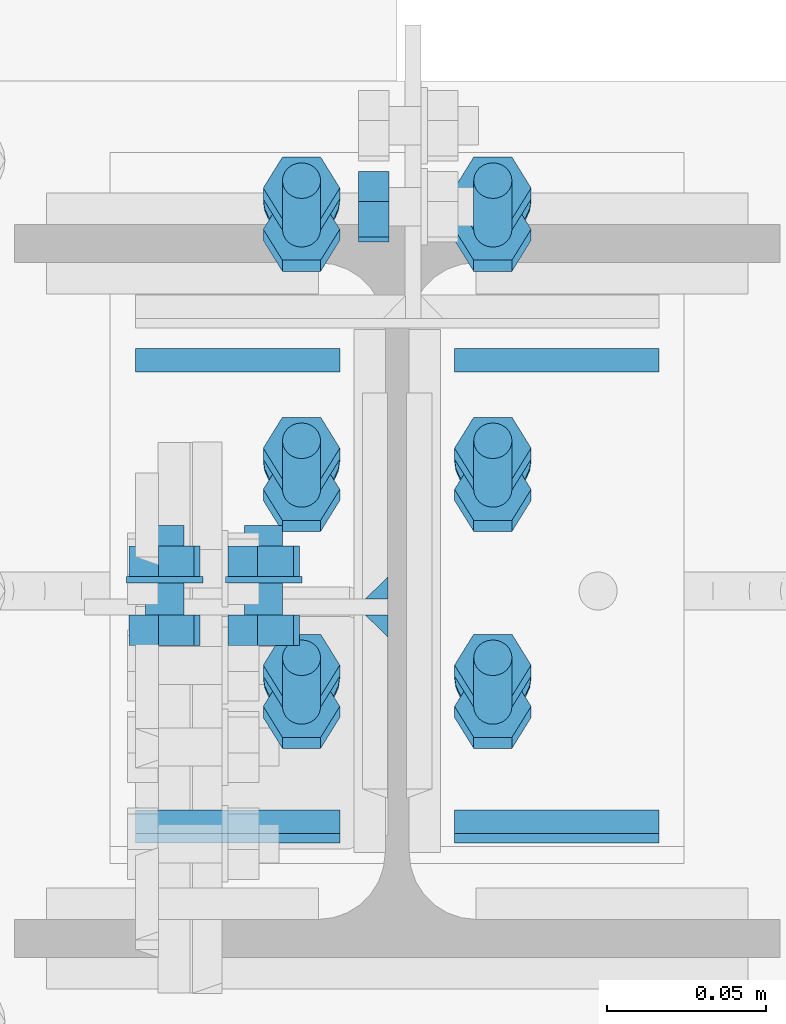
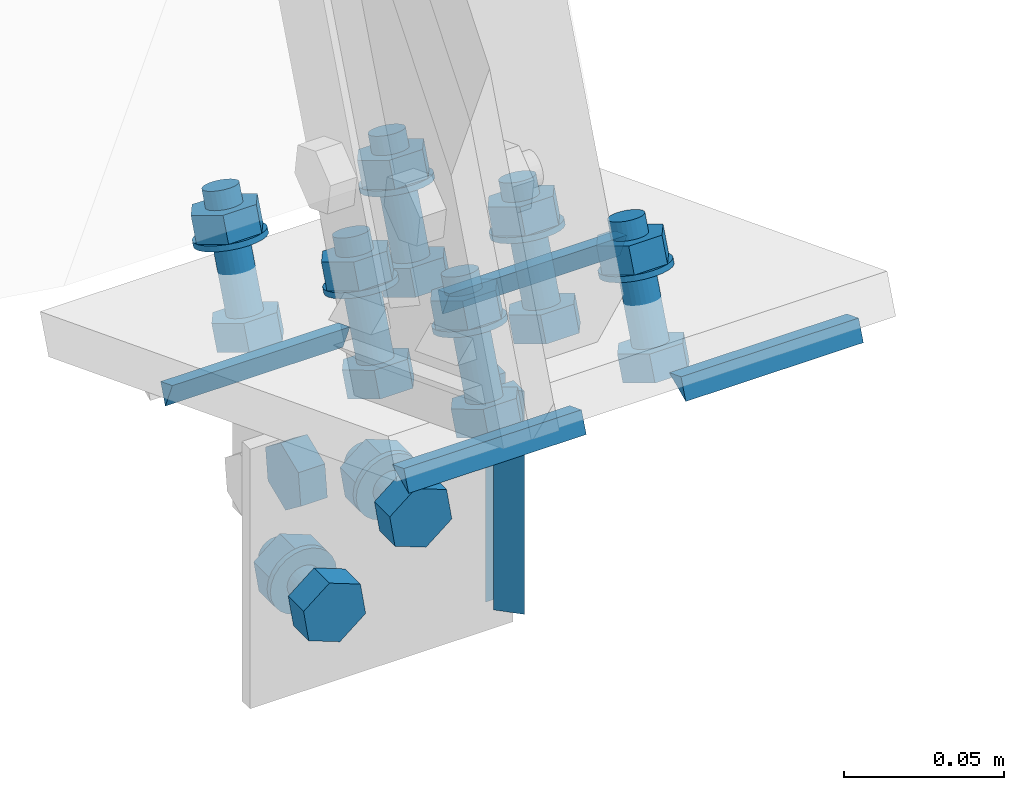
# One storey, part 60 of 72: 33 mechanical fasteners, 10 fasteners.
"""IFC4 building model written with IfcOpenShell, lengths in metres."""

from ifc_helpers import new_model, si_unit, frame, origin_with_axes, place, context, project, spatial, polyline, outline, extrude, type_object, element, save


model = new_model("IFC4")

# Units and contexts
model_context = context("Model", 3, precision=1e-05, world=origin_with_axes())
ifc_project = project(units=[si_unit("LENGTHUNIT", "METRE"), si_unit("AREAUNIT", "SQUARE_METRE"), si_unit("VOLUMEUNIT", "CUBIC_METRE"), si_unit("MASSUNIT", "GRAM", prefix="KILO"), si_unit("TIMEUNIT", "SECOND"), si_unit("PLANEANGLEUNIT", "RADIAN"), si_unit("SOLIDANGLEUNIT", "STERADIAN"), si_unit("THERMODYNAMICTEMPERATUREUNIT", "DEGREE_CELSIUS")], contexts=[model_context])

# Site, building, storey
placement_1 = place(None, origin_with_axes())
site = spatial("IfcSite", under=ifc_project, at=placement_1, Name="Italia", CompositionType="ELEMENT")
building = spatial("IfcBuilding", under=site, at=placement_1, Name="Uffici", CompositionType="ELEMENT")
storey = spatial("IfcBuildingStorey", under=building, at=placement_1, Name="Storey 0", CompositionType="ELEMENT", Elevation=0.0)

# Mechanical fasteners
mechanical_fastener_type_1 = type_object("IfcMechanicalFastenerType", Name="Collegamento 0205_0104", PredefinedType="BOLT")
placement_2 = place(placement_1, origin_with_axes())
mechanical_fastener_1_placement = place(placement_2, origin_with_axes())
element("IfcMechanicalFastener", 1, at=mechanical_fastener_1_placement, inside=storey, type_object=mechanical_fastener_type_1, Name="Collegamento 0205_0104", NominalDiameter=0.0119994, context=model_context, shape_type="SweptSolid", body=[
    extrude(outline(polyline([(0.0, 0.0), (0.00932503, 0.00755262), (0.00744629, 0.0194049), (-0.00375652, 0.0237041), (-0.0130816, 0.0161514), (-0.0112038, 0.00429916), (0.0, 0.0)])), frame((13.93, -0.0075, 6.93705), z_axis=(0.0, -1.0, 0.0), x_axis=(1.0, 0.0, 0.0)), (0.0, 0.0, 1.0), 0.0096),
])
mechanical_fastener_type_2 = type_object("IfcMechanicalFastenerType", Name="Collegamento 0205_0104", PredefinedType="BOLT")
mechanical_fastener_2_placement = place(placement_2, origin_with_axes())
element("IfcMechanicalFastener", 2, at=mechanical_fastener_2_placement, inside=storey, type_object=mechanical_fastener_type_2, Name="Collegamento 0205_0104", NominalDiameter=0.012, context=model_context, shape_type="SweptSolid", body=[
    extrude(outline(polyline([(0.0, 0.0), (-0.000204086, -0.00155306), (-0.000802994, -0.00299978), (-0.00175667, -0.00424242), (-0.00299931, -0.00519609), (-0.00444698, -0.00579548), (-0.00599957, -0.00600004), (-0.00755215, -0.00579548), (-0.00899982, -0.00519609), (-0.0102425, -0.00424242), (-0.0111961, -0.00299978), (-0.011795, -0.00155306), (-0.0119991, 0.0), (-0.011795, 0.00155306), (-0.0111961, 0.00299978), (-0.0102425, 0.00424242), (-0.00899982, 0.00519609), (-0.00755215, 0.00579548), (-0.00599957, 0.00600004), (-0.00444698, 0.00579548), (-0.00299931, 0.00519609), (-0.00175667, 0.00424242), (-0.000802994, 0.00299978), (-0.000204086, 0.00155306), (0.0, 0.0)])), frame((13.9341, 0.0205, 6.9489), z_axis=(0.0, -1.0, 0.0), x_axis=(1.0, 0.0, 0.0)), (0.0, 0.0, 1.0), 0.028),
])
mechanical_fastener_type_3 = type_object("IfcMechanicalFastenerType", Name="Collegamento 0205_0104", PredefinedType="BOLT")
mechanical_fastener_3_placement = place(placement_2, origin_with_axes())
element("IfcMechanicalFastener", 3, at=mechanical_fastener_3_placement, inside=storey, type_object=mechanical_fastener_type_3, Name="Collegamento 0205_0104", NominalDiameter=0.0119994, context=model_context, shape_type="SweptSolid", body=[
    extrude(outline(polyline([(0.0, 0.0), (0.00932503, 0.00755262), (0.00744629, 0.0194049), (-0.00375652, 0.0237041), (-0.0130816, 0.0161514), (-0.0112038, 0.00429916), (0.0, 0.0)])), frame((13.93, 0.0141, 6.93705), z_axis=(0.0, -1.0, 0.0), x_axis=(1.0, 0.0, 0.0)), (0.0, 0.0, 1.0), 0.0096),
])
mechanical_fastener_type_4 = type_object("IfcMechanicalFastenerType", Name="Collegamento 0205_0104", PredefinedType="BOLT")
mechanical_fastener_4_placement = place(placement_2, origin_with_axes())
element("IfcMechanicalFastener", 4, at=mechanical_fastener_4_placement, inside=storey, type_object=mechanical_fastener_type_4, Name="Collegamento 0205_0104", NominalDiameter=0.024, context=model_context, shape_type="SweptSolid", body=[
    extrude(outline(polyline([(0.0, 0.0), (-0.000409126, -0.00310564), (-0.00160789, -0.00600004), (-0.00351524, -0.00848532), (-0.00600052, -0.0103922), (-0.00889397, -0.011591), (-0.0120001, -0.0120001), (-0.0151062, -0.011591), (-0.0179996, -0.0103922), (-0.0204849, -0.00848532), (-0.0223923, -0.00600004), (-0.023591, -0.00310564), (-0.0240002, 0.0), (-0.023591, 0.00310564), (-0.0223923, 0.00600004), (-0.0204849, 0.00848532), (-0.0179996, 0.0103922), (-0.0151062, 0.011591), (-0.0120001, 0.0120001), (-0.00889397, 0.011591), (-0.00600052, 0.0103922), (-0.00351524, 0.00848532), (-0.00160789, 0.00600004), (-0.000409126, 0.00310564), (0.0, 0.0)])), frame((13.9401, 0.0045, 6.9489), z_axis=(0.0, -1.0, 0.0), x_axis=(1.0, 0.0, 0.0)), (0.0, 0.0, 1.0), 0.002),
])
mechanical_fastener_type_5 = type_object("IfcMechanicalFastenerType", Name="Collegamento 0205_0104", PredefinedType="BOLT")
mechanical_fastener_5_placement = place(placement_2, origin_with_axes())
element("IfcMechanicalFastener", 5, at=mechanical_fastener_5_placement, inside=storey, type_object=mechanical_fastener_type_5, Name="Collegamento 0205_0104", NominalDiameter=0.0119998, context=model_context, shape_type="SweptSolid", body=[
    extrude(outline(polyline([(0.0, 0.0), (0.00932503, 0.0075531), (0.00744629, 0.0194049), (-0.00375748, 0.0237045), (-0.0130825, 0.0161514), (-0.0112038, 0.00429964), (0.0, 0.0)])), frame((13.8989, -0.0075, 6.91187), z_axis=(0.0, -1.0, 0.0), x_axis=(1.0, 0.0, 0.0)), (0.0, 0.0, 1.0), 0.0096),
])
mechanical_fastener_type_6 = type_object("IfcMechanicalFastenerType", Name="Collegamento 0205_0104", PredefinedType="BOLT")
mechanical_fastener_6_placement = place(placement_2, origin_with_axes())
element("IfcMechanicalFastener", 6, at=mechanical_fastener_6_placement, inside=storey, type_object=mechanical_fastener_type_6, Name="Collegamento 0205_0104", NominalDiameter=0.012, context=model_context, shape_type="SweptSolid", body=[
    extrude(outline(polyline([(0.0, 0.0), (-0.000204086, -0.00155306), (-0.000802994, -0.00299978), (-0.00175667, -0.00424242), (-0.00299931, -0.00519609), (-0.00444698, -0.00579548), (-0.00599957, -0.00600004), (-0.00755215, -0.00579548), (-0.00899982, -0.00519609), (-0.0102425, -0.00424242), (-0.0111961, -0.00299978), (-0.011795, -0.00155306), (-0.0119991, 0.0), (-0.011795, 0.00155306), (-0.0111961, 0.00299978), (-0.0102425, 0.00424242), (-0.00899982, 0.00519609), (-0.00755215, 0.00579548), (-0.00599957, 0.00600004), (-0.00444698, 0.00579548), (-0.00299931, 0.00519609), (-0.00175667, 0.00424242), (-0.000802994, 0.00299978), (-0.000204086, 0.00155306), (0.0, 0.0)])), frame((13.9031, 0.0205, 6.92372), z_axis=(0.0, -1.0, 0.0), x_axis=(1.0, 0.0, 0.0)), (0.0, 0.0, 1.0), 0.028),
])
mechanical_fastener_type_7 = type_object("IfcMechanicalFastenerType", Name="Collegamento 0205_0104", PredefinedType="BOLT")
mechanical_fastener_7_placement = place(placement_2, origin_with_axes())
element("IfcMechanicalFastener", 7, at=mechanical_fastener_7_placement, inside=storey, type_object=mechanical_fastener_type_7, Name="Collegamento 0205_0104", NominalDiameter=0.0119998, context=model_context, shape_type="SweptSolid", body=[
    extrude(outline(polyline([(0.0, 0.0), (0.00932503, 0.0075531), (0.00744629, 0.0194049), (-0.00375748, 0.0237045), (-0.0130825, 0.0161514), (-0.0112038, 0.00429964), (0.0, 0.0)])), frame((13.8989, 0.0141, 6.91187), z_axis=(0.0, -1.0, 0.0), x_axis=(1.0, 0.0, 0.0)), (0.0, 0.0, 1.0), 0.0096),
])
mechanical_fastener_type_8 = type_object("IfcMechanicalFastenerType", Name="Collegamento 0205_0104", PredefinedType="BOLT")
mechanical_fastener_8_placement = place(placement_2, origin_with_axes())
element("IfcMechanicalFastener", 8, at=mechanical_fastener_8_placement, inside=storey, type_object=mechanical_fastener_type_8, Name="Collegamento 0205_0104", NominalDiameter=0.024, context=model_context, shape_type="SweptSolid", body=[
    extrude(outline(polyline([(0.0, 0.0), (-0.000409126, -0.00310564), (-0.00160789, -0.00600004), (-0.00351524, -0.00848532), (-0.00600052, -0.0103922), (-0.00889397, -0.011591), (-0.0120001, -0.0120001), (-0.0151062, -0.011591), (-0.0179996, -0.0103922), (-0.0204849, -0.00848532), (-0.0223923, -0.00600004), (-0.023591, -0.00310564), (-0.0240002, 0.0), (-0.023591, 0.00310564), (-0.0223923, 0.00600004), (-0.0204849, 0.00848532), (-0.0179996, 0.0103922), (-0.0151062, 0.011591), (-0.0120001, 0.0120001), (-0.00889397, 0.011591), (-0.00600052, 0.0103922), (-0.00351524, 0.00848532), (-0.00160789, 0.00600004), (-0.000409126, 0.00310564), (0.0, 0.0)])), frame((13.9091, 0.0045, 6.92372), z_axis=(0.0, -1.0, 0.0), x_axis=(1.0, 0.0, 0.0)), (0.0, 0.0, 1.0), 0.002),
])

# Fasteners
fastener_type_1 = type_object("IfcFastenerType", Name="Collegamento 0205_0104", PredefinedType="WELD")
fastener_1_placement = place(placement_2, origin_with_axes())
element("IfcFastener", 9, at=fastener_1_placement, inside=storey, type_object=fastener_type_1, Name="Collegamento 0205_0104", context=model_context, shape_type="SweptSolid", body=[
    extrude(outline(polyline([(0.0, 0.0), (-0.00695816, -0.00717258), (-0.00695816, 0.0), (0.0, 0.0)])), frame((13.9671, 0.00440816, 6.98192), z_axis=(0.0, 0.0, -1.0), x_axis=(0.0, 1.0, 0.0)), (0.0, 0.0, 1.0), 0.0851007),
])
fastener_type_2 = type_object("IfcFastenerType", Name="Collegamento 0205_0104", PredefinedType="WELD")
fastener_2_placement = place(placement_2, origin_with_axes())
element("IfcFastener", 10, at=fastener_2_placement, inside=storey, type_object=fastener_type_2, Name="Collegamento 0205_0104", context=model_context, shape_type="SweptSolid", body=[
    extrude(outline(polyline([(0.0, 0.0), (0.00695816, 0.00717258), (0.00695816, 0.0), (0.0, 0.0)])), frame((13.9671, -0.0144082, 6.89682), z_axis=(0.0, 0.0, 1.0), x_axis=(0.0, 1.0, 0.0)), (0.0, 0.0, 1.0), 0.0851007),
])
fastener_type_3 = type_object("IfcFastenerType", Name="Collegamento 0205_0105", PredefinedType="WELD")
fastener_3_placement = place(placement_2, origin_with_axes())
element("IfcFastener", 11, at=fastener_3_placement, inside=storey, type_object=fastener_type_3, Name="Collegamento 0205_0105", context=model_context, shape_type="SweptSolid", body=[
    extrude(outline(polyline([(0.0, 0.0), (-0.00443701, -0.0104866), (-0.00739191, -0.00286627), (0.0, 0.0)])), frame((14.0521, 0.0686731, 6.96138), z_axis=(-1.0, 0.0, 0.0), x_axis=(0.0, -1.0, 0.0)), (0.0, 0.0, 1.0), 0.0641003),
])
fastener_type_4 = type_object("IfcFastenerType", Name="Collegamento 0205_0105", PredefinedType="WELD")
fastener_4_placement = place(placement_2, origin_with_axes())
element("IfcFastener", 12, at=fastener_4_placement, inside=storey, type_object=fastener_type_4, Name="Collegamento 0205_0105", context=model_context, shape_type="SweptSolid", body=[
    extrude(outline(polyline([(0.0, 0.0), (-0.0103468, -0.00475454), (-0.00739191, 0.00286627), (0.0, 0.0)])), frame((13.988, -0.0686362, 7.01462), z_axis=(1.0, 0.0, 0.0), x_axis=(0.0, 1.0, 0.0)), (0.0, 0.0, 1.0), 0.0641003),
])
fastener_type_5 = type_object("IfcFastenerType", Name="Collegamento 0205_0105", PredefinedType="WELD")
fastener_5_placement = place(placement_2, origin_with_axes())
element("IfcFastener", 13, at=fastener_5_placement, inside=storey, type_object=fastener_type_5, Name="Collegamento 0205_0105", context=model_context, shape_type="SweptSolid", body=[
    extrude(outline(polyline([(0.0, 0.0), (-0.0103468, -0.00475454), (-0.00739191, 0.00286627), (0.0, 0.0)])), frame((13.888, -0.0686362, 7.01462), z_axis=(1.0, 0.0, 0.0), x_axis=(0.0, 1.0, 0.0)), (0.0, 0.0, 1.0), 0.0641003),
])
fastener_type_6 = type_object("IfcFastenerType", Name="Collegamento 0205_0105", PredefinedType="WELD")
fastener_6_placement = place(placement_2, origin_with_axes())
element("IfcFastener", 14, at=fastener_6_placement, inside=storey, type_object=fastener_type_6, Name="Collegamento 0205_0105", context=model_context, shape_type="SweptSolid", body=[
    extrude(outline(polyline([(0.0, 0.0), (-0.00443701, -0.0104866), (-0.00739191, -0.00286627), (0.0, 0.0)])), frame((13.9521, 0.0686731, 6.96138), z_axis=(-1.0, 0.0, 0.0), x_axis=(0.0, -1.0, 0.0)), (0.0, 0.0, 1.0), 0.0641003),
])
fastener_type_7 = type_object("IfcFastenerType", Name="Collegamento 0205_0105", PredefinedType="WELD")
fastener_7_placement = place(placement_2, origin_with_axes())
element("IfcFastener", 15, at=fastener_7_placement, inside=storey, type_object=fastener_type_7, Name="Collegamento 0205_0105", context=model_context, shape_type="SweptSolid", body=[
    extrude(outline(polyline([(0.0, 0.0), (-0.00443701, -0.0104866), (-0.00739191, -0.00286627), (0.0, 0.0)])), frame((14.0521, 0.0686731, 6.96138), z_axis=(-1.0, 0.0, 0.0), x_axis=(0.0, -1.0, 0.0)), (0.0, 0.0, 1.0), 0.0641003),
])
fastener_type_8 = type_object("IfcFastenerType", Name="Collegamento 0205_0105", PredefinedType="WELD")
fastener_8_placement = place(placement_2, origin_with_axes())
element("IfcFastener", 16, at=fastener_8_placement, inside=storey, type_object=fastener_type_8, Name="Collegamento 0205_0105", context=model_context, shape_type="SweptSolid", body=[
    extrude(outline(polyline([(0.0, 0.0), (-0.0103468, -0.00475454), (-0.00739191, 0.00286627), (0.0, 0.0)])), frame((13.988, -0.0686362, 7.01462), z_axis=(1.0, 0.0, 0.0), x_axis=(0.0, 1.0, 0.0)), (0.0, 0.0, 1.0), 0.0641003),
])
fastener_type_9 = type_object("IfcFastenerType", Name="Collegamento 0205_0105", PredefinedType="WELD")
fastener_9_placement = place(placement_2, origin_with_axes())
element("IfcFastener", 17, at=fastener_9_placement, inside=storey, type_object=fastener_type_9, Name="Collegamento 0205_0105", context=model_context, shape_type="SweptSolid", body=[
    extrude(outline(polyline([(0.0, 0.0), (-0.0103468, -0.00475454), (-0.00739191, 0.00286627), (0.0, 0.0)])), frame((13.888, -0.0686362, 7.01462), z_axis=(1.0, 0.0, 0.0), x_axis=(0.0, 1.0, 0.0)), (0.0, 0.0, 1.0), 0.0641003),
])
fastener_type_10 = type_object("IfcFastenerType", Name="Collegamento 0205_0105", PredefinedType="WELD")
fastener_10_placement = place(placement_2, origin_with_axes())
element("IfcFastener", 18, at=fastener_10_placement, inside=storey, type_object=fastener_type_10, Name="Collegamento 0205_0105", context=model_context, shape_type="SweptSolid", body=[
    extrude(outline(polyline([(0.0, 0.0), (-0.00443701, -0.0104866), (-0.00739191, -0.00286627), (0.0, 0.0)])), frame((13.9521, 0.0686731, 6.96138), z_axis=(-1.0, 0.0, 0.0), x_axis=(0.0, -1.0, 0.0)), (0.0, 0.0, 1.0), 0.0641003),
])

# Mechanical fasteners
mechanical_fastener_type_9 = type_object("IfcMechanicalFastenerType", Name="Collegamento 0205_0105", PredefinedType="BOLT")
mechanical_fastener_9_placement = place(placement_2, origin_with_axes())
element("IfcMechanicalFastener", 19, at=mechanical_fastener_9_placement, inside=storey, type_object=mechanical_fastener_type_9, Name="Collegamento 0205_0105", NominalDiameter=0.0119997, context=model_context, shape_type="SweptSolid", body=[
    extrude(outline(polyline([(0.0, 0.0), (0.0120001, 0.0), (0.0179996, -0.0103922), (0.0120001, -0.0207846), (0.0, -0.0207846), (-0.00600052, -0.0103922), (0.0, 0.0)])), frame((13.994, 0.103764, 6.94772), z_axis=(0.0, -0.361526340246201, -0.932361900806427), x_axis=(1.0, 0.0, 0.0)), (0.0, 0.0, 1.0), 0.00960004),
])
mechanical_fastener_type_10 = type_object("IfcMechanicalFastenerType", Name="Collegamento 0205_0105", PredefinedType="BOLT")
mechanical_fastener_10_placement = place(placement_2, origin_with_axes())
element("IfcMechanicalFastener", 20, at=mechanical_fastener_10_placement, inside=storey, type_object=mechanical_fastener_type_10, Name="Collegamento 0205_0105", NominalDiameter=0.012, context=model_context, shape_type="SweptSolid", body=[
    extrude(outline(polyline([(0.0, 0.0), (-0.000204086, -0.00155282), (-0.000802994, -0.00300002), (-0.00175667, -0.00424266), (-0.00299931, -0.00519633), (-0.00444698, -0.00579548), (-0.00599957, -0.0059998), (-0.00755215, -0.00579548), (-0.00899982, -0.00519633), (-0.0102425, -0.00424266), (-0.0111961, -0.00300002), (-0.011795, -0.00155282), (-0.0119991, 0.0), (-0.011795, 0.00155282), (-0.0111961, 0.00300002), (-0.0102425, 0.00424266), (-0.00899982, 0.00519633), (-0.00755215, 0.00579548), (-0.00599957, 0.00600004), (-0.00444698, 0.00579548), (-0.00299931, 0.00519633), (-0.00175667, 0.00424266), (-0.000802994, 0.00300002), (-0.000204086, 0.00155282), (0.0, 0.0)])), frame((14.006, 0.12871, 6.9833), z_axis=(0.0, -0.361526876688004, -0.932361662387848), x_axis=(1.0, 0.0, 0.0)), (0.0, 0.0, 1.0), 0.0422001),
])
mechanical_fastener_type_11 = type_object("IfcMechanicalFastenerType", Name="Collegamento 0205_0105", PredefinedType="BOLT")
mechanical_fastener_11_placement = place(placement_2, origin_with_axes())
element("IfcMechanicalFastener", 21, at=mechanical_fastener_11_placement, inside=storey, type_object=mechanical_fastener_type_11, Name="Collegamento 0205_0105", NominalDiameter=0.0119997, context=model_context, shape_type="SweptSolid", body=[
    extrude(outline(polyline([(0.0, 0.0), (0.0120001, 0.0), (0.0179996, -0.0103922), (0.0120001, -0.0207846), (0.0, -0.0207846), (-0.00600052, -0.0103922), (0.0, 0.0)])), frame((13.994, 0.116706, 6.9811), z_axis=(0.0, -0.361526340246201, -0.932361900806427), x_axis=(1.0, 0.0, 0.0)), (0.0, 0.0, 1.0), 0.00960004),
])
mechanical_fastener_type_12 = type_object("IfcMechanicalFastenerType", Name="Collegamento 0205_0105", PredefinedType="BOLT")
mechanical_fastener_12_placement = place(placement_2, origin_with_axes())
element("IfcMechanicalFastener", 22, at=mechanical_fastener_12_placement, inside=storey, type_object=mechanical_fastener_type_12, Name="Collegamento 0205_0105", NominalDiameter=0.024, context=model_context, shape_type="SweptSolid", body=[
    extrude(outline(polyline([(0.0, 0.0), (-0.000409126, -0.00310588), (-0.00160789, -0.00600004), (-0.00351524, -0.00848532), (-0.00600052, -0.0103922), (-0.00889397, -0.0115912), (-0.0120001, -0.0120001), (-0.0151062, -0.0115912), (-0.0179996, -0.0103922), (-0.0204849, -0.00848532), (-0.0223923, -0.00600004), (-0.023591, -0.00310588), (-0.0240002, 0.0), (-0.023591, 0.00310564), (-0.0223923, 0.00600004), (-0.0204849, 0.00848508), (-0.0179996, 0.0103922), (-0.0151062, 0.011591), (-0.0120001, 0.0119998), (-0.00889397, 0.011591), (-0.00600052, 0.0103922), (-0.00351524, 0.00848508), (-0.00160789, 0.00600004), (-0.000409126, 0.00310564), (0.0, 0.0)])), frame((14.012, 0.122925, 6.96839), z_axis=(0.0, -0.361528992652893, -0.932360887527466), x_axis=(1.0, 0.0, 0.0)), (0.0, 0.0, 1.0), 0.0020002),
])
mechanical_fastener_type_13 = type_object("IfcMechanicalFastenerType", Name="Collegamento 0205_0105", PredefinedType="BOLT")
mechanical_fastener_13_placement = place(placement_2, origin_with_axes())
element("IfcMechanicalFastener", 23, at=mechanical_fastener_13_placement, inside=storey, type_object=mechanical_fastener_type_13, Name="Collegamento 0205_0105", NominalDiameter=0.0119997, context=model_context, shape_type="SweptSolid", body=[
    extrude(outline(polyline([(0.0, 0.0), (0.0120001, 0.0), (0.0180006, -0.0103922), (0.0120001, -0.0207846), (0.0, -0.0207846), (-0.00599957, -0.0103922), (0.0, 0.0)])), frame((13.934, 0.103764, 6.94772), z_axis=(0.0, -0.361526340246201, -0.932361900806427), x_axis=(1.0, 0.0, 0.0)), (0.0, 0.0, 1.0), 0.00960004),
])
mechanical_fastener_type_14 = type_object("IfcMechanicalFastenerType", Name="Collegamento 0205_0105", PredefinedType="BOLT")
mechanical_fastener_14_placement = place(placement_2, origin_with_axes())
element("IfcMechanicalFastener", 24, at=mechanical_fastener_14_placement, inside=storey, type_object=mechanical_fastener_type_14, Name="Collegamento 0205_0105", NominalDiameter=0.012, context=model_context, shape_type="SweptSolid", body=[
    extrude(outline(polyline([(0.0, 0.0), (-0.000204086, -0.00155282), (-0.000802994, -0.00300002), (-0.00175667, -0.00424266), (-0.00299931, -0.00519633), (-0.00444698, -0.00579548), (-0.00599957, -0.0059998), (-0.00755215, -0.00579548), (-0.00899982, -0.00519633), (-0.0102425, -0.00424266), (-0.0111961, -0.00300002), (-0.011795, -0.00155282), (-0.0119991, 0.0), (-0.011795, 0.00155282), (-0.0111961, 0.00300002), (-0.0102425, 0.00424266), (-0.00899982, 0.00519633), (-0.00755215, 0.00579548), (-0.00599957, 0.00600004), (-0.00444698, 0.00579548), (-0.00299931, 0.00519633), (-0.00175667, 0.00424266), (-0.000802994, 0.00300002), (-0.000204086, 0.00155282), (0.0, 0.0)])), frame((13.946, 0.12871, 6.9833), z_axis=(0.0, -0.361526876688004, -0.932361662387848), x_axis=(1.0, 0.0, 0.0)), (0.0, 0.0, 1.0), 0.0422001),
])
mechanical_fastener_type_15 = type_object("IfcMechanicalFastenerType", Name="Collegamento 0205_0105", PredefinedType="BOLT")
mechanical_fastener_15_placement = place(placement_2, origin_with_axes())
element("IfcMechanicalFastener", 25, at=mechanical_fastener_15_placement, inside=storey, type_object=mechanical_fastener_type_15, Name="Collegamento 0205_0105", NominalDiameter=0.0119997, context=model_context, shape_type="SweptSolid", body=[
    extrude(outline(polyline([(0.0, 0.0), (0.0120001, 0.0), (0.0180006, -0.0103922), (0.0120001, -0.0207846), (0.0, -0.0207846), (-0.00599957, -0.0103922), (0.0, 0.0)])), frame((13.934, 0.116706, 6.9811), z_axis=(0.0, -0.361526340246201, -0.932361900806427), x_axis=(1.0, 0.0, 0.0)), (0.0, 0.0, 1.0), 0.00960004),
])
mechanical_fastener_type_16 = type_object("IfcMechanicalFastenerType", Name="Collegamento 0205_0105", PredefinedType="BOLT")
mechanical_fastener_16_placement = place(placement_2, origin_with_axes())
element("IfcMechanicalFastener", 26, at=mechanical_fastener_16_placement, inside=storey, type_object=mechanical_fastener_type_16, Name="Collegamento 0205_0105", NominalDiameter=0.024, context=model_context, shape_type="SweptSolid", body=[
    extrude(outline(polyline([(0.0, 0.0), (-0.000409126, -0.00310588), (-0.00160789, -0.00600004), (-0.00351524, -0.00848532), (-0.00600052, -0.0103922), (-0.00889397, -0.0115912), (-0.0120001, -0.0120001), (-0.0151062, -0.0115912), (-0.0179996, -0.0103922), (-0.0204849, -0.00848532), (-0.0223923, -0.00600004), (-0.023591, -0.00310588), (-0.0240002, 0.0), (-0.023591, 0.00310564), (-0.0223923, 0.00600004), (-0.0204849, 0.00848508), (-0.0179996, 0.0103922), (-0.0151062, 0.011591), (-0.0120001, 0.0119998), (-0.00889397, 0.011591), (-0.00600052, 0.0103922), (-0.00351524, 0.00848508), (-0.00160789, 0.00600004), (-0.000409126, 0.00310564), (0.0, 0.0)])), frame((13.952, 0.122925, 6.96839), z_axis=(0.0, -0.361528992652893, -0.932360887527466), x_axis=(1.0, 0.0, 0.0)), (0.0, 0.0, 1.0), 0.0020002),
])
mechanical_fastener_type_17 = type_object("IfcMechanicalFastenerType", Name="Collegamento 0205_0105", PredefinedType="BOLT")
mechanical_fastener_17_placement = place(placement_2, origin_with_axes())
element("IfcMechanicalFastener", 27, at=mechanical_fastener_17_placement, inside=storey, type_object=mechanical_fastener_type_17, Name="Collegamento 0205_0105", NominalDiameter=0.0119998, context=model_context, shape_type="SweptSolid", body=[
    extrude(outline(polyline([(0.0, 0.0), (0.0120001, 0.0), (0.0179996, -0.0103927), (0.0120001, -0.0207849), (0.0, -0.0207849), (-0.00600052, -0.0103927), (0.0, 0.0)])), frame((13.994, -0.0458802, 7.00574), z_axis=(0.0, -0.361526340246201, -0.932361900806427), x_axis=(1.0, 0.0, 0.0)), (0.0, 0.0, 1.0), 0.00960004),
])
mechanical_fastener_type_18 = type_object("IfcMechanicalFastenerType", Name="Collegamento 0205_0105", PredefinedType="BOLT")
mechanical_fastener_18_placement = place(placement_2, origin_with_axes())
element("IfcMechanicalFastener", 28, at=mechanical_fastener_18_placement, inside=storey, type_object=mechanical_fastener_type_18, Name="Collegamento 0205_0105", NominalDiameter=0.012, context=model_context, shape_type="SweptSolid", body=[
    extrude(outline(polyline([(0.0, 0.0), (-0.000204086, -0.00155282), (-0.000802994, -0.00300002), (-0.00175667, -0.00424266), (-0.00299931, -0.00519633), (-0.00444698, -0.00579572), (-0.00599957, -0.00600028), (-0.00755215, -0.00579572), (-0.00899982, -0.00519633), (-0.0102425, -0.00424266), (-0.0111961, -0.00300002), (-0.011795, -0.00155282), (-0.0119991, 0.0), (-0.011795, 0.00155282), (-0.0111961, 0.00300002), (-0.0102425, 0.00424266), (-0.00899982, 0.00519609), (-0.00755215, 0.00579548), (-0.00599957, 0.00600004), (-0.00444698, 0.00579548), (-0.00299931, 0.00519609), (-0.00175667, 0.00424266), (-0.000802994, 0.00300002), (-0.000204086, 0.00155282), (0.0, 0.0)])), frame((14.006, -0.0209343, 7.04133), z_axis=(0.0, -0.361528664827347, -0.932361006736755), x_axis=(1.0, 0.0, 0.0)), (0.0, 0.0, 1.0), 0.0422001),
])
mechanical_fastener_type_19 = type_object("IfcMechanicalFastenerType", Name="Collegamento 0205_0105", PredefinedType="BOLT")
mechanical_fastener_19_placement = place(placement_2, origin_with_axes())
element("IfcMechanicalFastener", 29, at=mechanical_fastener_19_placement, inside=storey, type_object=mechanical_fastener_type_19, Name="Collegamento 0205_0105", NominalDiameter=0.0119997, context=model_context, shape_type="SweptSolid", body=[
    extrude(outline(polyline([(0.0, 0.0), (0.0120001, 0.0), (0.0179996, -0.0103922), (0.0120001, -0.0207844), (0.0, -0.0207844), (-0.00600052, -0.0103922), (0.0, 0.0)])), frame((13.994, -0.0329375, 7.03912), z_axis=(0.0, -0.36154305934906, -0.932355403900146), x_axis=(1.0, 0.0, 0.0)), (0.0, 0.0, 1.0), 0.00959959),
])
mechanical_fastener_type_20 = type_object("IfcMechanicalFastenerType", Name="Collegamento 0205_0105", PredefinedType="BOLT")
mechanical_fastener_20_placement = place(placement_2, origin_with_axes())
element("IfcMechanicalFastener", 30, at=mechanical_fastener_20_placement, inside=storey, type_object=mechanical_fastener_type_20, Name="Collegamento 0205_0105", NominalDiameter=0.024, context=model_context, shape_type="SweptSolid", body=[
    extrude(outline(polyline([(0.0, 0.0), (-0.000409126, -0.00310612), (-0.00160789, -0.00600028), (-0.00351524, -0.00848532), (-0.00600052, -0.0103924), (-0.00889397, -0.0115914), (-0.0120001, -0.0120003), (-0.0151062, -0.0115914), (-0.0179996, -0.0103924), (-0.0204849, -0.00848532), (-0.0223923, -0.00600028), (-0.023591, -0.00310612), (-0.0240002, 0.0), (-0.023591, 0.00310564), (-0.0223923, 0.0059998), (-0.0204849, 0.00848508), (-0.0179996, 0.0103922), (-0.0151062, 0.011591), (-0.0120001, 0.0119998), (-0.00889397, 0.011591), (-0.00600052, 0.0103922), (-0.00351524, 0.00848508), (-0.00160789, 0.0059998), (-0.000409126, 0.00310564), (0.0, 0.0)])), frame((14.012, -0.0267188, 7.02641), z_axis=(0.0, -0.3614162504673, -0.932404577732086), x_axis=(1.0, 0.0, 0.0)), (0.0, 0.0, 1.0), 0.00200062),
])
mechanical_fastener_type_21 = type_object("IfcMechanicalFastenerType", Name="Collegamento 0205_0105", PredefinedType="BOLT")
mechanical_fastener_21_placement = place(placement_2, origin_with_axes())
element("IfcMechanicalFastener", 31, at=mechanical_fastener_21_placement, inside=storey, type_object=mechanical_fastener_type_21, Name="Collegamento 0205_0105", NominalDiameter=0.0119998, context=model_context, shape_type="SweptSolid", body=[
    extrude(outline(polyline([(0.0, 0.0), (0.0120001, 0.0), (0.0180006, -0.0103927), (0.0120001, -0.0207849), (0.0, -0.0207849), (-0.00599957, -0.0103927), (0.0, 0.0)])), frame((13.934, -0.0458802, 7.00574), z_axis=(0.0, -0.361526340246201, -0.932361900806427), x_axis=(1.0, 0.0, 0.0)), (0.0, 0.0, 1.0), 0.00960004),
])
mechanical_fastener_type_22 = type_object("IfcMechanicalFastenerType", Name="Collegamento 0205_0105", PredefinedType="BOLT")
mechanical_fastener_22_placement = place(placement_2, origin_with_axes())
element("IfcMechanicalFastener", 32, at=mechanical_fastener_22_placement, inside=storey, type_object=mechanical_fastener_type_22, Name="Collegamento 0205_0105", NominalDiameter=0.012, context=model_context, shape_type="SweptSolid", body=[
    extrude(outline(polyline([(0.0, 0.0), (-0.000204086, -0.00155282), (-0.000802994, -0.00300002), (-0.00175667, -0.00424266), (-0.00299931, -0.00519633), (-0.00444698, -0.00579572), (-0.00599957, -0.00600028), (-0.00755215, -0.00579572), (-0.00899982, -0.00519633), (-0.0102425, -0.00424266), (-0.0111961, -0.00300002), (-0.011795, -0.00155282), (-0.0119991, 0.0), (-0.011795, 0.00155282), (-0.0111961, 0.00300002), (-0.0102425, 0.00424266), (-0.00899982, 0.00519609), (-0.00755215, 0.00579548), (-0.00599957, 0.00600004), (-0.00444698, 0.00579548), (-0.00299931, 0.00519609), (-0.00175667, 0.00424266), (-0.000802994, 0.00300002), (-0.000204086, 0.00155282), (0.0, 0.0)])), frame((13.946, -0.0209343, 7.04133), z_axis=(0.0, -0.361528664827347, -0.932361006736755), x_axis=(1.0, 0.0, 0.0)), (0.0, 0.0, 1.0), 0.0422001),
])
mechanical_fastener_type_23 = type_object("IfcMechanicalFastenerType", Name="Collegamento 0205_0105", PredefinedType="BOLT")
mechanical_fastener_23_placement = place(placement_2, origin_with_axes())
element("IfcMechanicalFastener", 33, at=mechanical_fastener_23_placement, inside=storey, type_object=mechanical_fastener_type_23, Name="Collegamento 0205_0105", NominalDiameter=0.0119997, context=model_context, shape_type="SweptSolid", body=[
    extrude(outline(polyline([(0.0, 0.0), (0.0120001, 0.0), (0.0180006, -0.0103922), (0.0120001, -0.0207844), (0.0, -0.0207844), (-0.00599957, -0.0103922), (0.0, 0.0)])), frame((13.934, -0.0329375, 7.03912), z_axis=(0.0, -0.36154305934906, -0.932355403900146), x_axis=(1.0, 0.0, 0.0)), (0.0, 0.0, 1.0), 0.00959959),
])
mechanical_fastener_type_24 = type_object("IfcMechanicalFastenerType", Name="Collegamento 0205_0105", PredefinedType="BOLT")
mechanical_fastener_24_placement = place(placement_2, origin_with_axes())
element("IfcMechanicalFastener", 34, at=mechanical_fastener_24_placement, inside=storey, type_object=mechanical_fastener_type_24, Name="Collegamento 0205_0105", NominalDiameter=0.024, context=model_context, shape_type="SweptSolid", body=[
    extrude(outline(polyline([(0.0, 0.0), (-0.000409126, -0.00310612), (-0.00160789, -0.00600028), (-0.00351524, -0.00848532), (-0.00600052, -0.0103924), (-0.00889397, -0.0115914), (-0.0120001, -0.0120003), (-0.0151062, -0.0115914), (-0.0179996, -0.0103924), (-0.0204849, -0.00848532), (-0.0223923, -0.00600028), (-0.023591, -0.00310612), (-0.0240002, 0.0), (-0.023591, 0.00310564), (-0.0223923, 0.0059998), (-0.0204849, 0.00848508), (-0.0179996, 0.0103922), (-0.0151062, 0.011591), (-0.0120001, 0.0119998), (-0.00889397, 0.011591), (-0.00600052, 0.0103922), (-0.00351524, 0.00848508), (-0.00160789, 0.0059998), (-0.000409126, 0.00310564), (0.0, 0.0)])), frame((13.952, -0.0267188, 7.02641), z_axis=(0.0, -0.3614162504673, -0.932404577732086), x_axis=(1.0, 0.0, 0.0)), (0.0, 0.0, 1.0), 0.00200062),
])
mechanical_fastener_type_25 = type_object("IfcMechanicalFastenerType", Name="Collegamento 0205_0105", PredefinedType="BOLT")
mechanical_fastener_25_placement = place(placement_2, origin_with_axes())
element("IfcMechanicalFastener", 35, at=mechanical_fastener_25_placement, inside=storey, type_object=mechanical_fastener_type_25, Name="Collegamento 0205_0105", NominalDiameter=0.0119997, context=model_context, shape_type="SweptSolid", body=[
    extrude(outline(polyline([(0.0, 0.0), (0.0120001, 0.0), (0.0179996, -0.0103924), (0.0120001, -0.0207846), (0.0, -0.0207846), (-0.00600052, -0.0103924), (0.0, 0.0)])), frame((13.994, 0.0221821, 6.97935), z_axis=(0.0, -0.361526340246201, -0.932361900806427), x_axis=(1.0, 0.0, 0.0)), (0.0, 0.0, 1.0), 0.00960004),
])
mechanical_fastener_type_26 = type_object("IfcMechanicalFastenerType", Name="Collegamento 0205_0105", PredefinedType="BOLT")
mechanical_fastener_26_placement = place(placement_2, origin_with_axes())
element("IfcMechanicalFastener", 36, at=mechanical_fastener_26_placement, inside=storey, type_object=mechanical_fastener_type_26, Name="Collegamento 0205_0105", NominalDiameter=0.012, context=model_context, shape_type="SweptSolid", body=[
    extrude(outline(polyline([(0.0, 0.0), (-0.000204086, -0.00155306), (-0.000802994, -0.00300002), (-0.00175667, -0.0042429), (-0.00299931, -0.00519609), (-0.00444698, -0.00579572), (-0.00599957, -0.00600004), (-0.00755215, -0.00579572), (-0.00899982, -0.00519609), (-0.0102425, -0.0042429), (-0.0111961, -0.00300002), (-0.011795, -0.00155306), (-0.0119991, 0.0), (-0.011795, 0.00155282), (-0.0111961, 0.00300002), (-0.0102425, 0.00424266), (-0.00899982, 0.00519609), (-0.00755215, 0.00579548), (-0.00599957, 0.00600004), (-0.00444698, 0.00579548), (-0.00299931, 0.00519609), (-0.00175667, 0.00424266), (-0.000802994, 0.00300002), (-0.000204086, 0.00155282), (0.0, 0.0)])), frame((14.006, 0.047128, 7.01494), z_axis=(0.0, -0.361532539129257, -0.932359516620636), x_axis=(1.0, 0.0, 0.0)), (0.0, 0.0, 1.0), 0.0421997),
])
mechanical_fastener_type_27 = type_object("IfcMechanicalFastenerType", Name="Collegamento 0205_0105", PredefinedType="BOLT")
mechanical_fastener_27_placement = place(placement_2, origin_with_axes())
element("IfcMechanicalFastener", 37, at=mechanical_fastener_27_placement, inside=storey, type_object=mechanical_fastener_type_27, Name="Collegamento 0205_0105", NominalDiameter=0.0119997, context=model_context, shape_type="SweptSolid", body=[
    extrude(outline(polyline([(0.0, 0.0), (0.0120001, 0.0), (0.0179996, -0.0103922), (0.0120001, -0.0207844), (0.0, -0.0207844), (-0.00600052, -0.0103922), (0.0, 0.0)])), frame((13.994, 0.0351248, 7.01273), z_axis=(0.0, -0.361526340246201, -0.932361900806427), x_axis=(1.0, 0.0, 0.0)), (0.0, 0.0, 1.0), 0.00960004),
])
mechanical_fastener_type_28 = type_object("IfcMechanicalFastenerType", Name="Collegamento 0205_0105", PredefinedType="BOLT")
mechanical_fastener_28_placement = place(placement_2, origin_with_axes())
element("IfcMechanicalFastener", 38, at=mechanical_fastener_28_placement, inside=storey, type_object=mechanical_fastener_type_28, Name="Collegamento 0205_0105", NominalDiameter=0.024, context=model_context, shape_type="SweptSolid", body=[
    extrude(outline(polyline([(0.0, 0.0), (-0.000409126, -0.00310588), (-0.00160789, -0.00600004), (-0.00351524, -0.00848532), (-0.00600052, -0.0103924), (-0.00889397, -0.0115912), (-0.0120001, -0.0119998), (-0.0151062, -0.0115912), (-0.0179996, -0.0103924), (-0.0204849, -0.00848532), (-0.0223923, -0.00600004), (-0.023591, -0.00310588), (-0.0240002, 0.0), (-0.023591, 0.00310588), (-0.0223923, 0.00600004), (-0.0204849, 0.00848532), (-0.0179996, 0.0103922), (-0.0151062, 0.0115912), (-0.0120001, 0.0119998), (-0.00889397, 0.0115912), (-0.00600052, 0.0103922), (-0.00351524, 0.00848532), (-0.00160789, 0.00600004), (-0.000409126, 0.00310588), (0.0, 0.0)])), frame((14.012, 0.0413436, 7.00002), z_axis=(0.0, -0.361576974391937, -0.932342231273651), x_axis=(1.0, 0.0, 0.0)), (0.0, 0.0, 1.0), 0.00199973),
])
mechanical_fastener_type_29 = type_object("IfcMechanicalFastenerType", Name="Collegamento 0205_0105", PredefinedType="BOLT")
mechanical_fastener_29_placement = place(placement_2, origin_with_axes())
element("IfcMechanicalFastener", 39, at=mechanical_fastener_29_placement, inside=storey, type_object=mechanical_fastener_type_29, Name="Collegamento 0205_0105", NominalDiameter=0.0119997, context=model_context, shape_type="SweptSolid", body=[
    extrude(outline(polyline([(0.0, 0.0), (0.0120001, 0.0), (0.0180006, -0.0103924), (0.0120001, -0.0207846), (0.0, -0.0207846), (-0.00599957, -0.0103924), (0.0, 0.0)])), frame((13.934, 0.0221821, 6.97935), z_axis=(0.0, -0.361526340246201, -0.932361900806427), x_axis=(1.0, 0.0, 0.0)), (0.0, 0.0, 1.0), 0.00960004),
])
mechanical_fastener_type_30 = type_object("IfcMechanicalFastenerType", Name="Collegamento 0205_0105", PredefinedType="BOLT")
mechanical_fastener_30_placement = place(placement_2, origin_with_axes())
element("IfcMechanicalFastener", 40, at=mechanical_fastener_30_placement, inside=storey, type_object=mechanical_fastener_type_30, Name="Collegamento 0205_0105", NominalDiameter=0.012, context=model_context, shape_type="SweptSolid", body=[
    extrude(outline(polyline([(0.0, 0.0), (-0.000204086, -0.00155306), (-0.000802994, -0.00300002), (-0.00175667, -0.0042429), (-0.00299931, -0.00519609), (-0.00444698, -0.00579572), (-0.00599957, -0.00600004), (-0.00755215, -0.00579572), (-0.00899982, -0.00519609), (-0.0102425, -0.0042429), (-0.0111961, -0.00300002), (-0.011795, -0.00155306), (-0.0119991, 0.0), (-0.011795, 0.00155282), (-0.0111961, 0.00300002), (-0.0102425, 0.00424266), (-0.00899982, 0.00519609), (-0.00755215, 0.00579548), (-0.00599957, 0.00600004), (-0.00444698, 0.00579548), (-0.00299931, 0.00519609), (-0.00175667, 0.00424266), (-0.000802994, 0.00300002), (-0.000204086, 0.00155282), (0.0, 0.0)])), frame((13.946, 0.047128, 7.01494), z_axis=(0.0, -0.361532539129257, -0.932359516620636), x_axis=(1.0, 0.0, 0.0)), (0.0, 0.0, 1.0), 0.0421997),
])
mechanical_fastener_type_31 = type_object("IfcMechanicalFastenerType", Name="Collegamento 0205_0105", PredefinedType="BOLT")
mechanical_fastener_31_placement = place(placement_2, origin_with_axes())
element("IfcMechanicalFastener", 41, at=mechanical_fastener_31_placement, inside=storey, type_object=mechanical_fastener_type_31, Name="Collegamento 0205_0105", NominalDiameter=0.0119997, context=model_context, shape_type="SweptSolid", body=[
    extrude(outline(polyline([(0.0, 0.0), (0.0120001, 0.0), (0.0180006, -0.0103922), (0.0120001, -0.0207844), (0.0, -0.0207844), (-0.00599957, -0.0103922), (0.0, 0.0)])), frame((13.934, 0.0351248, 7.01273), z_axis=(0.0, -0.361526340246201, -0.932361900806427), x_axis=(1.0, 0.0, 0.0)), (0.0, 0.0, 1.0), 0.00960004),
])
mechanical_fastener_type_32 = type_object("IfcMechanicalFastenerType", Name="Collegamento 0205_0105", PredefinedType="BOLT")
mechanical_fastener_32_placement = place(placement_2, origin_with_axes())
element("IfcMechanicalFastener", 42, at=mechanical_fastener_32_placement, inside=storey, type_object=mechanical_fastener_type_32, Name="Collegamento 0205_0105", NominalDiameter=0.024, context=model_context, shape_type="SweptSolid", body=[
    extrude(outline(polyline([(0.0, 0.0), (-0.000409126, -0.00310588), (-0.00160789, -0.00600004), (-0.00351524, -0.00848532), (-0.00600052, -0.0103924), (-0.00889397, -0.0115912), (-0.0120001, -0.0119998), (-0.0151062, -0.0115912), (-0.0179996, -0.0103924), (-0.0204849, -0.00848532), (-0.0223923, -0.00600004), (-0.023591, -0.00310588), (-0.0240002, 0.0), (-0.023591, 0.00310588), (-0.0223923, 0.00600004), (-0.0204849, 0.00848532), (-0.0179996, 0.0103922), (-0.0151062, 0.0115912), (-0.0120001, 0.0119998), (-0.00889397, 0.0115912), (-0.00600052, 0.0103922), (-0.00351524, 0.00848532), (-0.00160789, 0.00600004), (-0.000409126, 0.00310588), (0.0, 0.0)])), frame((13.952, 0.0413436, 7.00002), z_axis=(0.0, -0.361576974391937, -0.932342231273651), x_axis=(1.0, 0.0, 0.0)), (0.0, 0.0, 1.0), 0.00199973),
])
mechanical_fastener_type_33 = type_object("IfcMechanicalFastenerType", Name="Collegamento 0205_0110", PredefinedType="BOLT")
mechanical_fastener_33_placement = place(placement_2, origin_with_axes())
element("IfcMechanicalFastener", 43, at=mechanical_fastener_33_placement, inside=storey, type_object=mechanical_fastener_type_33, Name="Collegamento 0205_0110", NominalDiameter=0.0119999, context=model_context, shape_type="SweptSolid", body=[
    extrude(outline(polyline([(0.0, 0.0), (0.0095285, 0.00729465), (0.00797568, 0.0191936), (-0.0031057, 0.0237985), (-0.0126342, 0.0165038), (-0.0110813, 0.00460482), (0.0, 0.0)])), frame((13.9675, 0.118995, 6.85883), z_axis=(-1.0, 0.0, 0.0), x_axis=(0.0, -1.0, 0.0)), (0.0, 0.0, 1.0), 0.00960064),
])

save(model, "model.ifc")
